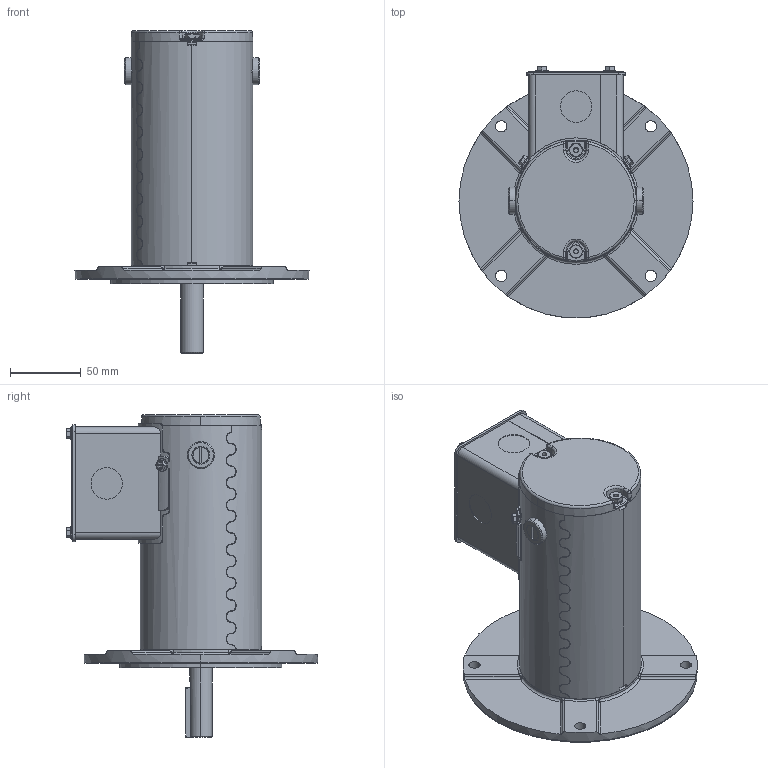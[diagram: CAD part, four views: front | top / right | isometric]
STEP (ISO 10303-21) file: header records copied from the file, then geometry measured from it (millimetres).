
FILE_DESCRIPTION (( 'STEP AP203' ), '1' );
FILE_NAME ('M1030138-M1130054_Rev07.STEP', '2017-11-02T08:35:46', ( '' ), ( '' ), 'SwSTEP 2.0', 'SolidWorks 2015', '' );
FILE_SCHEMA (( 'CONFIG_CONTROL_DESIGN' ));
Length unit declared in the file: inch
Products named in the file (1): M1030138-M1130054_Rev07
Bounding box: 165.1 x 177.26 x 227.8 mm (x, y, z)
Volume: 447085.9 mm3; surface area: 245733.4 mm2
Topology: 23 solids, 23 shells, 1732 faces, 4355 edges, 2733 vertices
Faces by surface type: plane 653, cylinder 396, bspline 251, cone 173, torus 147, sphere 112
Entity records: 70660 total; most frequent: CARTESIAN_POINT 30964, ORIENTED_EDGE 8674, DIRECTION 7642, EDGE_CURVE 4337, AXIS2_PLACEMENT_3D 2960, VERTEX_POINT 2733, EDGE_LOOP 1906, ADVANCED_FACE 1732
